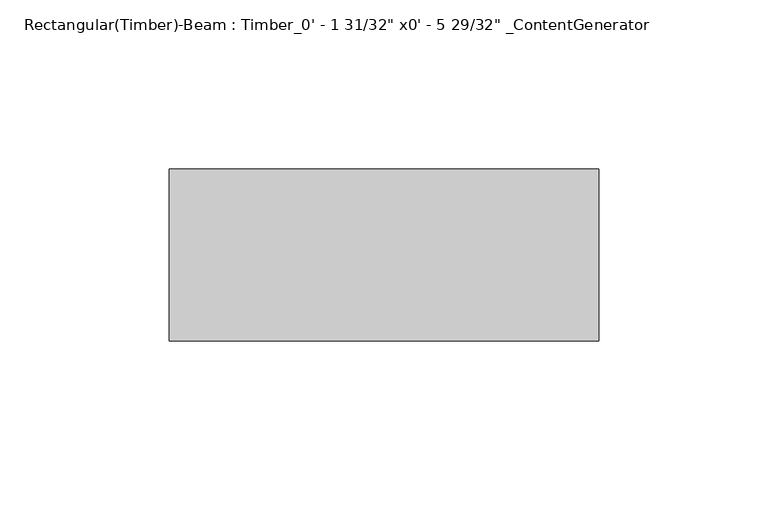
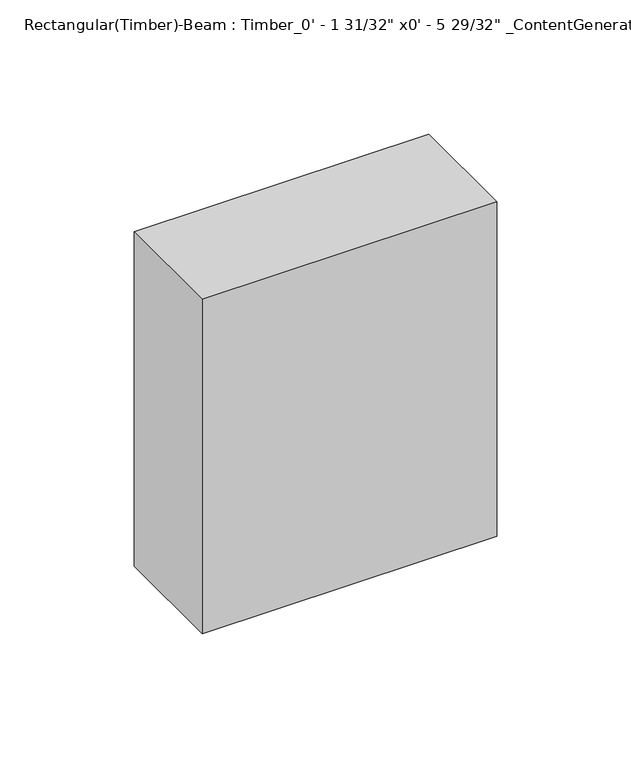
"""IFC4 building model written with IfcOpenShell, lengths in millimetres: beam geometry."""

import ifcopenshell
import ifcopenshell.guid

model = None  # the IFC model being written
_history = None  # IfcOwnerHistory: only IFC2X3 demands one
_inside = {}  # id of a spatial element -> (the spatial element, [elements in it])
_under = {}  # id of a project, library or spatial element -> (it, [spatial elements below it])
_declared = {}  # id of a project -> (the project, [libraries it declares])
_typed = {}  # id of a type object -> (the type object, [elements of that type])
_made_of = {}  # id of a material, layer set ... -> (it, [elements and type objects made of it])


def new_model(schema):
    """Start an empty IFC model of exactly this schema.

    Asked for "IFC4X3", IfcOpenShell would pick the latest addendum, in which some entities
    have other attributes; the version numbers below select the first issue.
    IFC2X3 requires an IfcOwnerHistory on every rooted entity: one is made here for all.
    """
    global model, _history
    if schema == "IFC4X3":
        model = ifcopenshell.file(schema_version=(4, 3, 0, 0))
    else:
        model = ifcopenshell.file(schema=schema)
    _inside.clear()
    _under.clear()
    _declared.clear()
    _typed.clear()
    _made_of.clear()
    _history = None
    if model.schema == "IFC2X3":
        org = make("IfcOrganization", Name="unknown")
        user = make(
            "IfcPersonAndOrganization",
            ThePerson=make("IfcPerson", FamilyName="unknown"),
            TheOrganization=org,
        )
        app = make(
            "IfcApplication",
            ApplicationDeveloper=org,
            Version="unknown",
            ApplicationFullName="unknown",
            ApplicationIdentifier="unknown",
        )
        _history = make(
            "IfcOwnerHistory",
            OwningUser=user,
            OwningApplication=app,
            ChangeAction="ADDED",
            CreationDate=0,
        )
    return model


def make(cls, **values):
    """One entity of the class cls with the attributes given. An attribute that is None is left unset."""
    return model.create_entity(
        cls, **{name: value for name, value in values.items() if value is not None}
    )


def rooted(cls, **values):
    """An entity with a GlobalId (a new one), such as an element, a storey or a relation."""
    return make(cls, GlobalId=ifcopenshell.guid.new(), OwnerHistory=_history, **values)


def si_unit(unit_type, name, prefix=None):
    """IfcSIUnit, for example si_unit("LENGTHUNIT", "METRE", prefix="MILLI")."""
    return make("IfcSIUnit", UnitType=unit_type, Prefix=prefix, Name=name)


def assignment(units):
    """IfcUnitAssignment: the units of a project."""
    return None if units is None else make("IfcUnitAssignment", Units=units)


def point(xyz):
    """IfcCartesianPoint."""
    return None if xyz is None else make("IfcCartesianPoint", Coordinates=xyz)


def direction(xyz):
    """IfcDirection."""
    return None if xyz is None else make("IfcDirection", DirectionRatios=xyz)


def frame(location, z_axis=None, x_axis=None):
    """IfcAxis2Placement3D, a coordinate frame: its origin and axes. An axis left out is left unset."""
    return make(
        "IfcAxis2Placement3D",
        Location=point(location),
        Axis=direction(z_axis),
        RefDirection=direction(x_axis),
    )


def origin():
    """The frame at (0, 0, 0) with its axes left unset."""
    return frame((0.0, 0.0, 0.0))


def place(relative_to, where):
    """IfcLocalPlacement: puts the frame where relative to a parent placement (None: the world)."""
    return make(
        "IfcLocalPlacement", PlacementRelTo=relative_to, RelativePlacement=where
    )


def context(
    kind, dimensions, precision=None, world=None, true_north=None, identifier=None
):
    """IfcGeometricRepresentationContext, for example the 3D "Model" context."""
    return make(
        "IfcGeometricRepresentationContext",
        ContextIdentifier=identifier,
        ContextType=kind,
        CoordinateSpaceDimension=dimensions,
        Precision=precision,
        WorldCoordinateSystem=world,
        TrueNorth=true_north,
    )


def project(units=None, contexts=None):
    """IfcProject with its units and contexts."""
    return rooted(
        "IfcProject",
        Name="project",
        RepresentationContexts=contexts,
        UnitsInContext=assignment(units),
    )


def spatial(cls, under=None, at=None, **own):
    """A site, building, storey or space (cls), placed at a placement, below another one or the project."""
    s = rooted(cls, ObjectPlacement=at, **own)
    if under is not None:
        _under.setdefault(under.id(), (under, []))[1].append(s)
    return s


def polyline(points):
    """IfcPolyline through the points."""
    return make("IfcPolyline", Points=[point(p) for p in points])


def outline(outer, holes=None, kind="AREA"):
    """IfcArbitraryClosedProfileDef: a profile drawn as a closed curve; with holes, ...WithVoids."""
    if holes is None:
        return make("IfcArbitraryClosedProfileDef", ProfileType=kind, OuterCurve=outer)
    return make(
        "IfcArbitraryProfileDefWithVoids",
        ProfileType=kind,
        OuterCurve=outer,
        InnerCurves=holes,
    )


def extrude(swept, where, along, depth):
    """IfcExtrudedAreaSolid: the profile swept, set in the frame where, extruded along a direction by depth."""
    return make(
        "IfcExtrudedAreaSolid",
        SweptArea=swept,
        Position=where,
        ExtrudedDirection=direction(along),
        Depth=depth,
    )


def shape(context_of_items, identifier, shape_type, items):
    """IfcShapeRepresentation: the items that make up one representation, for example the "Body"."""
    return make(
        "IfcShapeRepresentation",
        ContextOfItems=context_of_items,
        RepresentationIdentifier=identifier,
        RepresentationType=shape_type,
        Items=items,
    )


def source(mapping_origin, context_of_items, identifier, shape_type, items):
    """IfcRepresentationMap: a shape defined once, which mapped items show again and again."""
    return make(
        "IfcRepresentationMap",
        MappingOrigin=mapping_origin,
        MappedRepresentation=shape(context_of_items, identifier, shape_type, items),
    )


def transform(
    local_origin,
    x_axis=None,
    y_axis=None,
    z_axis=None,
    scale=None,
    scale2=None,
    scale3=None,
    uniform=True,
):
    """IfcCartesianTransformationOperator3D, or its non-uniform kind. x_axis, y_axis, z_axis: its Axis1, 2, 3."""
    if uniform:
        return make(
            "IfcCartesianTransformationOperator3D",
            Axis1=direction(x_axis),
            Axis2=direction(y_axis),
            LocalOrigin=point(local_origin),
            Scale=scale,
            Axis3=direction(z_axis),
        )
    return make(
        "IfcCartesianTransformationOperator3DnonUniform",
        Axis1=direction(x_axis),
        Axis2=direction(y_axis),
        LocalOrigin=point(local_origin),
        Scale=scale,
        Axis3=direction(z_axis),
        Scale2=scale2,
        Scale3=scale3,
    )


def mapped(mapping_source, mapping_target):
    """IfcMappedItem: shows the shape of a source again, moved by a transform."""
    return make(
        "IfcMappedItem", MappingSource=mapping_source, MappingTarget=mapping_target
    )


def made_of(thing, what):
    """Note that an element or type object is made of a material, layer set ...; save() writes the relation."""
    if what is not None:
        _made_of.setdefault(what.id(), (what, []))[1].append(thing)
    return thing


def element(
    cls,
    number,
    at=None,
    inside=None,
    cuts=None,
    type_object=None,
    material=None,
    context=None,
    identifier="Body",
    shape_type=None,
    held_by="IfcProductDefinitionShape",
    body=None,
    shapes=None,
    **own,
):
    """One element of the class cls, such as IfcWall. Its Tag is "e" and its number.

    at: its placement. inside: the storey or other place that contains it. cuts: it is an
    opening in that element (IfcRelVoidsElement). A single representation is given by context,
    identifier, shape_type and body (its items); several are given by shapes. held_by: the class
    of the entity that holds the representations. save() writes the other relations.
    """
    e = rooted(cls, Tag="e%d" % number, ObjectPlacement=at, **own)
    if body is not None:
        shapes = [shape(context, identifier, shape_type, body)]
    if shapes is not None:
        e.Representation = make(held_by, Representations=shapes)
    if inside is not None:
        _inside.setdefault(inside.id(), (inside, []))[1].append(e)
    if cuts is not None:
        rooted(
            "IfcRelVoidsElement", RelatingBuildingElement=cuts, RelatedOpeningElement=e
        )
    if type_object is not None:
        _typed.setdefault(type_object.id(), (type_object, []))[1].append(e)
    return made_of(e, material)


def aggregate(whole, parts):
    """IfcRelAggregates: a whole, such as a stair, and the parts it consists of."""
    return rooted("IfcRelAggregates", RelatingObject=whole, RelatedObjects=parts)


def save(model, path):
    """Write the relations noted so far, then the file.

    IfcRelAggregates (storeys below a building ...), IfcRelContainedInSpatialStructure (elements
    in a storey), IfcRelDefinesByType, IfcRelAssociatesMaterial and IfcRelDeclares: one each for
    every whole, place, type object, material and project.
    """
    for whole, parts in _under.values():
        aggregate(whole, parts)
    for where, things in _inside.values():
        rooted(
            "IfcRelContainedInSpatialStructure",
            RelatedElements=things,
            RelatingStructure=where,
        )
    for kind, things in _typed.values():
        rooted("IfcRelDefinesByType", RelatedObjects=things, RelatingType=kind)
    for what, things in _made_of.values():
        rooted("IfcRelAssociatesMaterial", RelatedObjects=things, RelatingMaterial=what)
    for by, libraries in _declared.values():
        rooted("IfcRelDeclares", RelatingContext=by, RelatedDefinitions=libraries)
    model.write(path)


def beam_bef4b980(model_context):
    return source(origin(), model_context, "Body", "SweptSolid", [
        extrude(outline(polyline([(63.495, 25.4), (63.495, -25.4), (-63.495, -25.4), (-63.495, 25.4), (63.495, 25.4)])), frame((0.0, 0.0, -76.2), z_axis=(0.0, 0.0, 1.0), x_axis=(1.0, 0.0, 0.0)), (0.0, 0.0, 1.0), 152.4),
    ])


if __name__ == "__main__":
    model = new_model("IFC4")
    model_context = context("Model", 3, world=origin())
    ifc_project = project(units=[si_unit("LENGTHUNIT", "METRE", prefix="MILLI")], contexts=[model_context])
    site = spatial("IfcSite", under=ifc_project)
    building = spatial("IfcBuilding", under=site)
    placement = place(None, origin())
    beam_shape = beam_bef4b980(model_context)
    element("IfcBeam", 1, ObjectType="Rectangular(Timber)-Beam : Timber_0' - 1 31/32\" x0' - 5 29/32\" _ContentGenerator", at=placement, inside=building, context=model_context, shape_type="MappedRepresentation", body=[
        mapped(beam_shape, transform((0.0, 0.0, 0.0), x_axis=(1.0, 0.0, 0.0), y_axis=(0.0, 1.0, 0.0), z_axis=(0.0, 0.0, 1.0))),
    ])
    save(model, "model.ifc")
